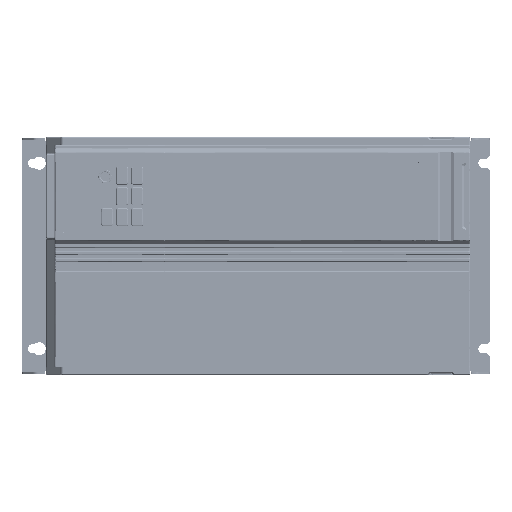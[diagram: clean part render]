
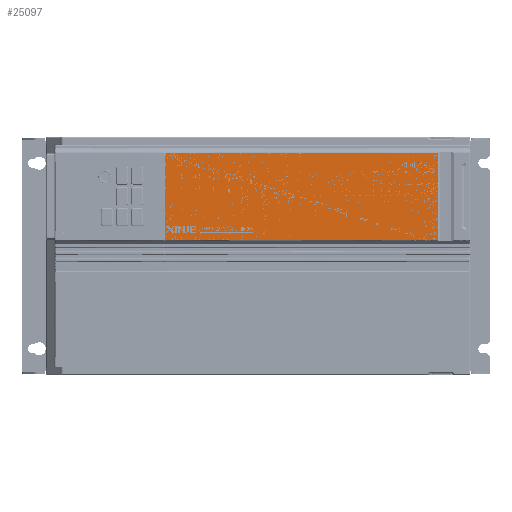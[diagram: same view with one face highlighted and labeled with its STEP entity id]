
A CAD part, left-side view. The second image highlights one B-rep face of the part: STEP entity #25097.
In plain terms, the highlighted planar face has unit normal (-1, 0, 0).
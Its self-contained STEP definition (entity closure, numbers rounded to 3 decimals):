
#25097=ADVANCED_FACE('',(#40856),#262489,.T.);
#40856=FACE_OUTER_BOUND('',#56982,.T.);
#56982=EDGE_LOOP('',(#101951,#101952,#101953,#101954));
#101951=ORIENTED_EDGE('',*,*,#169486,.T.);
#101952=ORIENTED_EDGE('',*,*,#169487,.T.);
#101953=ORIENTED_EDGE('',*,*,#169488,.T.);
#101954=ORIENTED_EDGE('',*,*,#169489,.T.);
#169486=EDGE_CURVE('',#241048,#241049,#209766,.T.);
#169487=EDGE_CURVE('',#241049,#241050,#209767,.T.);
#169488=EDGE_CURVE('',#241050,#241051,#209768,.T.);
#169489=EDGE_CURVE('',#241051,#241048,#209769,.T.);
#209766=B_SPLINE_CURVE_WITH_KNOTS('',1,(#388680,#388681),.UNSPECIFIED.,
 .F.,.F.,(2,2),(0.,66.),.UNSPECIFIED.);
#209767=B_SPLINE_CURVE_WITH_KNOTS('',1,(#388682,#388683),.UNSPECIFIED.,
 .F.,.F.,(2,2),(0.,205.609),.UNSPECIFIED.);
#209768=B_SPLINE_CURVE_WITH_KNOTS('',1,(#388684,#388685),.UNSPECIFIED.,
 .F.,.F.,(2,2),(0.,66.),.UNSPECIFIED.);
#209769=B_SPLINE_CURVE_WITH_KNOTS('',1,(#388686,#388687),.UNSPECIFIED.,
 .F.,.F.,(2,2),(0.,205.609),.UNSPECIFIED.);
#241048=VERTEX_POINT('',#387023);
#241049=VERTEX_POINT('',#387024);
#241050=VERTEX_POINT('',#387025);
#241051=VERTEX_POINT('',#387026);
#262489=PLANE('',#274049);
#274049=AXIS2_PLACEMENT_3D('',#383041,#285355,$);
#285355=DIRECTION('',(-1.,0.,0.));
#383041=CARTESIAN_POINT('',(-92.5,91.961,85.8));
#387023=CARTESIAN_POINT('',(-92.5,70.2,78.));
#387024=CARTESIAN_POINT('',(-92.5,70.2,12.));
#387025=CARTESIAN_POINT('',(-92.5,-135.409,12.));
#387026=CARTESIAN_POINT('',(-92.5,-135.409,78.));
#388680=CARTESIAN_POINT('',(-92.5,70.2,78.));
#388681=CARTESIAN_POINT('',(-92.5,70.2,12.));
#388682=CARTESIAN_POINT('',(-92.5,70.2,12.));
#388683=CARTESIAN_POINT('',(-92.5,-135.409,12.));
#388684=CARTESIAN_POINT('',(-92.5,-135.409,12.));
#388685=CARTESIAN_POINT('',(-92.5,-135.409,78.));
#388686=CARTESIAN_POINT('',(-92.5,-135.409,78.));
#388687=CARTESIAN_POINT('',(-92.5,70.2,78.));
